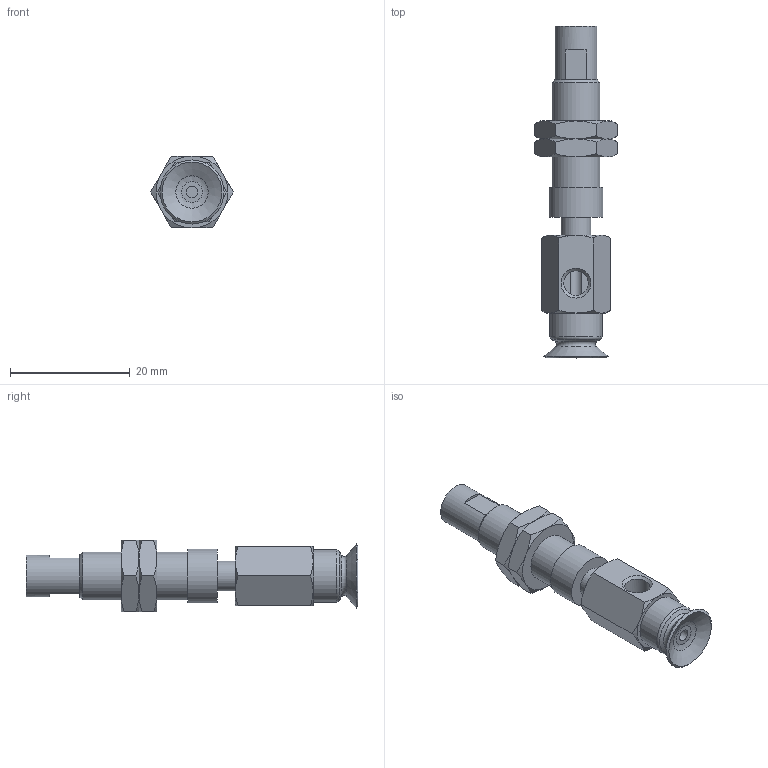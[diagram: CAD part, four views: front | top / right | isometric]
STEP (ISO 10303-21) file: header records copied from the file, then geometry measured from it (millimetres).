
FILE_DESCRIPTION(('STEP AP203'),'1');
FILE_NAME('.stp','2025-04-09T06:29:25',(' '),(' '),'Spatial InterOp 3D',' ',' ');
FILE_SCHEMA(('CONFIG_CONTROL_DESIGN'));
Length unit declared in the file: millimetre
Products named in the file (6): BNABPFYS-10A-3-※; CONNECTOR-10A-3; Nut-10A-3-s; NAPFTS-10A-3-FBODY; NAPFTS-10A-3-MBODY; BPFG-10A-※
Assembly tree (6 placements, depth 2):
  BNABPFYS-10A-3-※
    CONNECTOR-10A-3
    Nut-10A-3-s  x2
    NAPFTS-10A-3-FBODY
    NAPFTS-10A-3-MBODY
    BPFG-10A-※
Bounding box: 13.86 x 55.5 x 12 mm (x, y, z)
Volume: 3378.3 mm3; surface area: 4039.3 mm2
Topology: 6 solids, 6 shells, 129 faces, 270 edges, 163 vertices
Faces by surface type: plane 52, cone 51, cylinder 17, torus 8, bspline 1
Full cylindrical faces by diameter (mm): 2 x2, 4 x2, 4.134 x2, 5 x3, 6 x2, 7 x1, 7.188 x2, 8 x1, 8.7 x1, 9 x1
Entity records: 3131 total; most frequent: CARTESIAN_POINT 792, DIRECTION 430, ORIENTED_EDGE 354, AXIS2_PLACEMENT_3D 195, EDGE_CURVE 177, EDGE_LOOP 162, FACE_OUTER_BOUND 131, VERTEX_POINT 127
